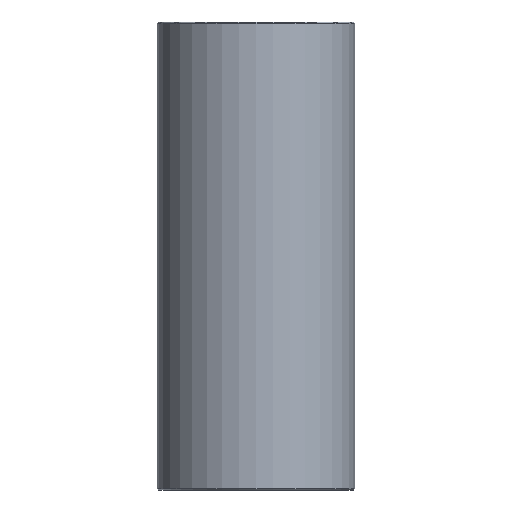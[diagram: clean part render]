
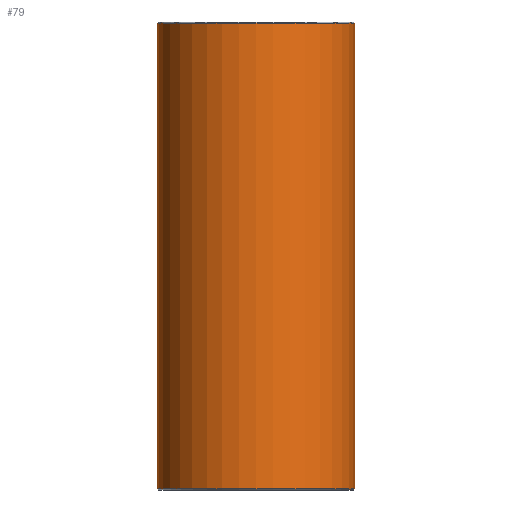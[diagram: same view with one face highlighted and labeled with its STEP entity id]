
A CAD part, front view. The second image highlights one B-rep face of the part: STEP entity #79.
In plain terms, the highlighted cylindrical face has radius 19 mm (diameter 38 mm), a full revolution.
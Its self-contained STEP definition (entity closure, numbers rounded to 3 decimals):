
#79=ADVANCED_FACE('',(#96,#97),#98,.T.);
#96=FACE_OUTER_BOUND('',#120,.T.);
#97=FACE_OUTER_BOUND('',#121,.T.);
#98=CYLINDRICAL_SURFACE('',#122,19.0);
#120=EDGE_LOOP('',(#152));
#121=EDGE_LOOP('',(#153));
#122=AXIS2_PLACEMENT_3D('',#154,#155,#156);
#152=ORIENTED_EDGE('',*,*,#178,.T.);
#153=ORIENTED_EDGE('',*,*,#177,.T.);
#154=CARTESIAN_POINT('',(0.0,0.0,90.0));
#155=DIRECTION('',(0.0,0.0,-1.0));
#156=DIRECTION('',(-1.0,0.0,0.0));
#177=EDGE_CURVE('',#190,#190,#191,.T.);
#178=EDGE_CURVE('',#192,#192,#193,.F.);
#190=VERTEX_POINT('',#206);
#191=CIRCLE('',#207,19.0);
#192=VERTEX_POINT('',#208);
#193=CIRCLE('',#209,19.0);
#206=CARTESIAN_POINT('',(19.0,0.0,0.2));
#207=AXIS2_PLACEMENT_3D('',#227,#228,#229);
#208=CARTESIAN_POINT('',(19.0,0.,89.8));
#209=AXIS2_PLACEMENT_3D('',#230,#231,#232);
#227=CARTESIAN_POINT('',(0.0,0.0,0.2));
#228=DIRECTION('',(0.0,0.0,1.0));
#229=DIRECTION('',(1.0,0.0,0.0));
#230=CARTESIAN_POINT('',(0.0,0.0,89.8));
#231=DIRECTION('',(0.0,0.0,1.0));
#232=DIRECTION('',(1.0,0.0,0.0));
